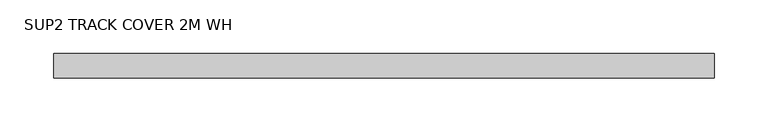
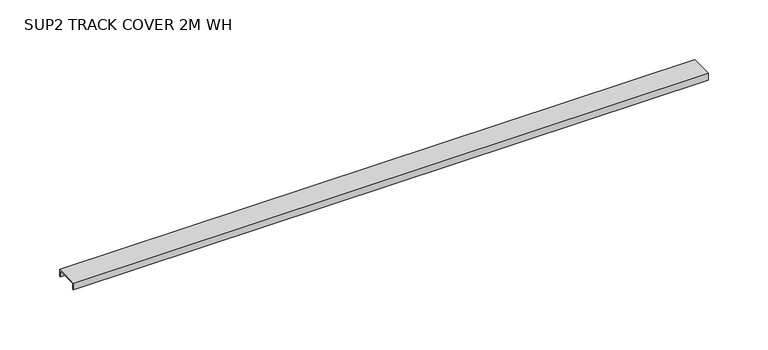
"""IFC4 building model written with IfcOpenShell, lengths in millimetres: light fixture geometry, Zumtobel SUP2 TRACK COVER 2M WH : SUP2 TRACK COVER 2M WH."""

from ifc_helpers import new_model, si_unit, frame, origin, place, context, project, spatial, polyline, outline, extrude, source, transform, mapped, element, save


def sup2_track_cover_2m_wh_5201e29f(model_context):
    return source(origin(), model_context, "Body", "SweptSolid", [
        extrude(outline(polyline([(-11.5, 0.0), (11.5, 0.0), (11.5, -7.0), (10.5, -7.0), (10.5, -1.0), (-10.5, -1.0), (-10.5, -7.0), (-11.5, -7.0), (-11.5, 0.0)])), frame((399.5000048, 0.0, 0.0), z_axis=(1.0, 0.0, 0.0), x_axis=(0.0, 1.0, 0.0)), (0.0, 0.0, 1.0), 614.9304946),
    ])


if __name__ == "__main__":
    model = new_model("IFC4")
    model_context = context("Model", 3, world=origin())
    ifc_project = project(units=[si_unit("LENGTHUNIT", "METRE", prefix="MILLI")], contexts=[model_context])
    site = spatial("IfcSite", under=ifc_project)
    building = spatial("IfcBuilding", under=site)
    placement = place(None, origin())
    sup2_track_cover_2m_wh_shape = sup2_track_cover_2m_wh_5201e29f(model_context)
    element("IfcLightFixture", 1, ObjectType="Zumtobel SUP2 TRACK COVER 2M WH : SUP2 TRACK COVER 2M WH", at=placement, inside=building, context=model_context, shape_type="MappedRepresentation", body=[
        mapped(sup2_track_cover_2m_wh_shape, transform((0.0, 0.0, 0.0), x_axis=(1.0, 0.0, 0.0), y_axis=(0.0, 1.0, 0.0), z_axis=(0.0, 0.0, 1.0))),
    ])
    save(model, "model.ifc")
